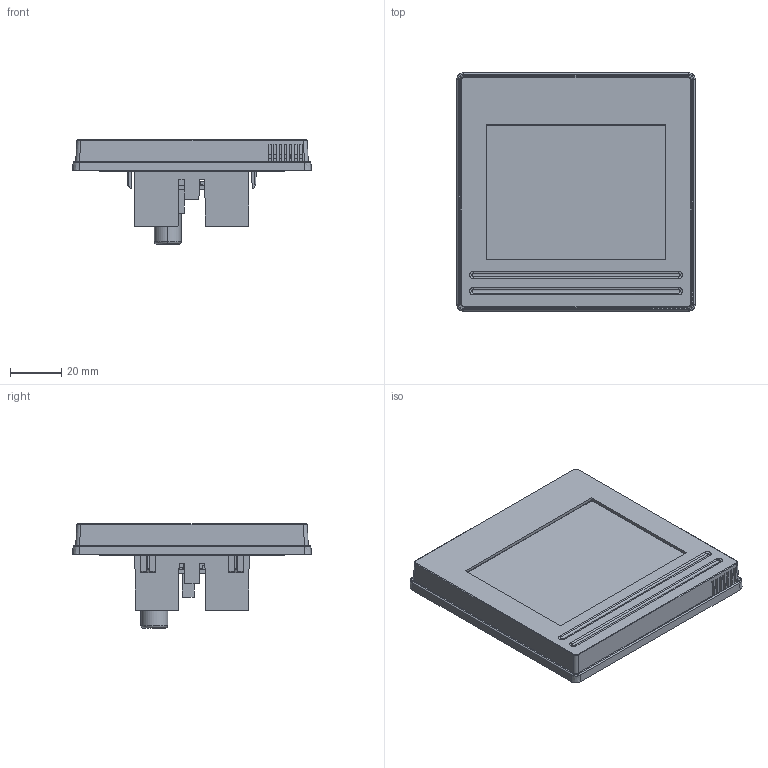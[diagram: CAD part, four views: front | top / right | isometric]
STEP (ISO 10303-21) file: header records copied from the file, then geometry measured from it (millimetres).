
FILE_DESCRIPTION (( 'STEP AP214' ), '1' );
FILE_NAME ('ETT352.STEP', '2016-03-09T06:46:48', ( 'SIGMATEK GmbH & Co KG' ), ( 'SIGMATEK GmbH & Co KG' ), 'SwSTEP 2.0', 'SolidWorks 2015', '' );
FILE_SCHEMA (( 'AUTOMOTIVE_DESIGN' ));
Length unit declared in the file: millimetre
Products named in the file (9): ETT352; 114401_20140129; 4080225345 Erni Art. Nr. 464822 ähnlich 354062; 1010133112_Panasonic_ECA1HM471B; Einsatz f黵 Unterputzdose V16.0 mit FS; 7227771128 - TM035KBH02_V1.41_ohne oben; Deckel f黵 Front V18.0 mit FS; Front 3,5 Zoll V15 mit FS
Assembly tree (8 placements, depth 3):
  ETT352
    Front 3,5 Zoll V15 mit FS
    Deckel f黵 Front V18.0 mit FS
    7227771128 - TM035KBH02_V1.41_ohne oben
    Einsatz f黵 Unterputzdose V16.0 mit FS
    114401_20140129
      114401_20140129
      1010133112_Panasonic_ECA1HM471B
      4080225345 Erni Art. Nr. 464822 ähnlich 354062
Bounding box: 93.27 x 93.27 x 40.68 mm (x, y, z)
Volume: 62740.7 mm3; surface area: 78324 mm2
Topology: 37 solids, 37 shells, 1653 faces, 4406 edges, 2864 vertices
Faces by surface type: plane 1268, cylinder 135, cone 128, bspline 92, torus 30
Entity records: 66347 total; most frequent: CARTESIAN_POINT 14771, ORIENTED_EDGE 8804, DIRECTION 7721, EDGE_CURVE 4402, VECTOR 3641, LINE 3641, VERTEX_POINT 2864, AXIS2_PLACEMENT_3D 2040
